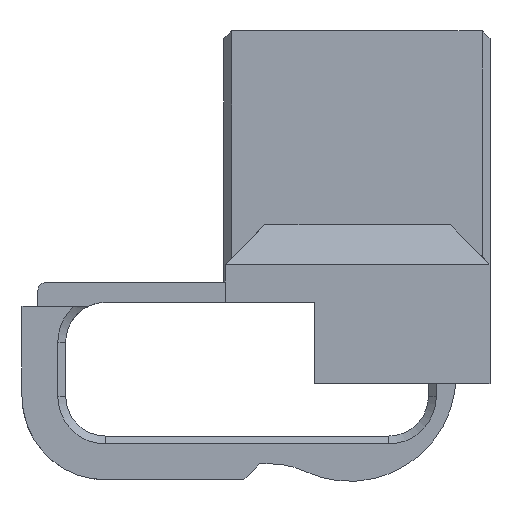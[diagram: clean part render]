
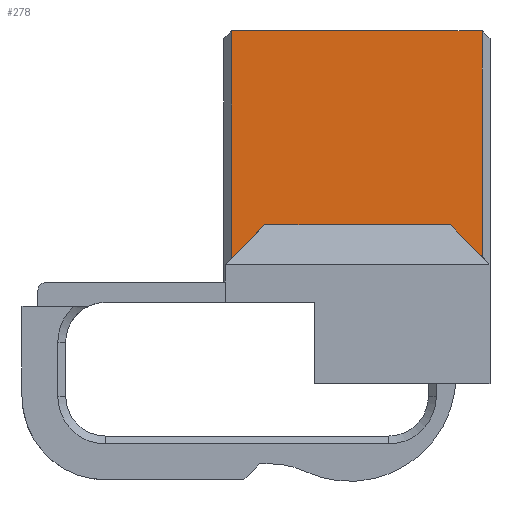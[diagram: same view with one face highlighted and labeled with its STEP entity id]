
A CAD part, left-side view. The second image highlights one B-rep face of the part: STEP entity #278.
In plain terms, the highlighted planar face has unit normal (-1, 0, 0).
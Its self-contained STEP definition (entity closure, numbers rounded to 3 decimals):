
#278=ADVANCED_FACE('',(#921),#923,.T.);
#921=FACE_BOUND('',#922,.T.);
#922=EDGE_LOOP('',(#1465,#1466,#1467,#1468,#1469,#1470));
#923=PLANE('',#924);
#924=AXIS2_PLACEMENT_3D('',#925,#926,#927);
#925=CARTESIAN_POINT('',(-2.05,0.,0.));
#926=DIRECTION('',(-1.,0.,0.));
#927=DIRECTION('',(0.,1.,0.));
#1465=ORIENTED_EDGE('',*,*,#1830,.T.);
#1466=ORIENTED_EDGE('',*,*,#1831,.T.);
#1467=ORIENTED_EDGE('',*,*,#1832,.F.);
#1468=ORIENTED_EDGE('',*,*,#1833,.F.);
#1469=ORIENTED_EDGE('',*,*,#1834,.F.);
#1470=ORIENTED_EDGE('',*,*,#1835,.F.);
#1830=EDGE_CURVE('',#2107,#2108,#2109,.T.);
#1831=EDGE_CURVE('',#2108,#2110,#2111,.T.);
#1832=EDGE_CURVE('',#2112,#2110,#2113,.T.);
#1833=EDGE_CURVE('',#2114,#2112,#2115,.F.);
#1834=EDGE_CURVE('',#2116,#2114,#2117,.T.);
#1835=EDGE_CURVE('',#2107,#2116,#2118,.F.);
#2107=VERTEX_POINT('',#2701);
#2108=VERTEX_POINT('',#2702);
#2109=LINE('',#2703,#2704);
#2110=VERTEX_POINT('',#2706);
#2111=LINE('',#2707,#2708);
#2112=VERTEX_POINT('',#2710);
#2113=LINE('',#2711,#2712);
#2114=VERTEX_POINT('',#2714);
#2115=LINE('',#2715,#2716);
#2116=VERTEX_POINT('',#2718);
#2117=LINE('',#2719,#2720);
#2118=LINE('',#2722,#2723);
#2701=CARTESIAN_POINT('',(-2.05,0.04,-5.53));
#2702=CARTESIAN_POINT('',(-2.05,0.04,0.15));
#2703=CARTESIAN_POINT('',(-2.05,0.04,-5.53));
#2704=VECTOR('',#2705,1.);
#2705=DIRECTION('',(0.,0.,1.));
#2706=CARTESIAN_POINT('',(-2.05,6.34,0.15));
#2707=CARTESIAN_POINT('',(-2.05,0.04,0.15));
#2708=VECTOR('',#2709,1.);
#2709=DIRECTION('',(0.,1.,0.));
#2710=CARTESIAN_POINT('',(-2.05,6.34,-5.57));
#2711=CARTESIAN_POINT('',(-2.05,6.34,-5.57));
#2712=VECTOR('',#2713,1.);
#2713=DIRECTION('',(0.,0.,1.));
#2714=CARTESIAN_POINT('',(-2.05,5.5,-4.73));
#2715=CARTESIAN_POINT('',(-2.05,6.34,-5.57));
#2716=VECTOR('',#2717,1.);
#2717=DIRECTION('',(0.,-0.707,0.707));
#2718=CARTESIAN_POINT('',(-2.05,0.84,-4.73));
#2719=CARTESIAN_POINT('',(-2.05,0.84,-4.73));
#2720=VECTOR('',#2721,1.);
#2721=DIRECTION('',(0.,1.,0.));
#2722=CARTESIAN_POINT('',(-2.05,0.84,-4.73));
#2723=VECTOR('',#2724,1.);
#2724=DIRECTION('',(0.,-0.707,-0.707));
